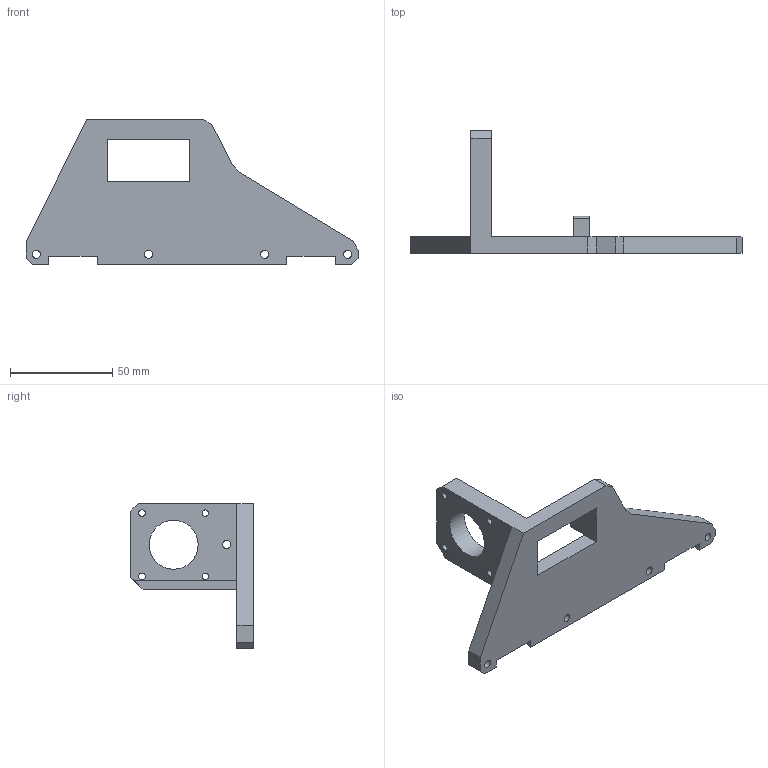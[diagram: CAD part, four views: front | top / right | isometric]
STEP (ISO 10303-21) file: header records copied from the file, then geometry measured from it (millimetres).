
FILE_DESCRIPTION(/* description */ (''),/* implementation_level */ '2;1');
FILE_NAME(/* name */ 'Base top.step',/* time_stamp */ '2025-04-22T12:36:24+05:30',/* author */ (''),/* organization */ (''),/* preprocessor_version */ 'ST-DEVELOPER v20.1',/* originating_system */ 'Autodesk Translation Framework v14.4.0.0',/* authorisation */ '');
FILE_SCHEMA (('AUTOMOTIVE_DESIGN { 1 0 10303 214 3 1 1 }'));
Length unit declared in the file: millimetre
Products named in the file (1): Base top
Bounding box: 162.65 x 60 x 70.92 mm (x, y, z)
Volume: 72632.4 mm3; surface area: 24901.5 mm2
Topology: 1 solids, 1 shells, 53 faces, 149 edges, 99 vertices
Faces by surface type: plane 34, cylinder 18, bspline 1
Full cylindrical faces by diameter (mm): 3.2 x4, 3.7 x2, 4 x5, 24 x1
Entity records: 1813 total; most frequent: CARTESIAN_POINT 320, ORIENTED_EDGE 298, DIRECTION 292, EDGE_CURVE 149, LINE 110, VECTOR 110, VERTEX_POINT 99, AXIS2_PLACEMENT_3D 91
